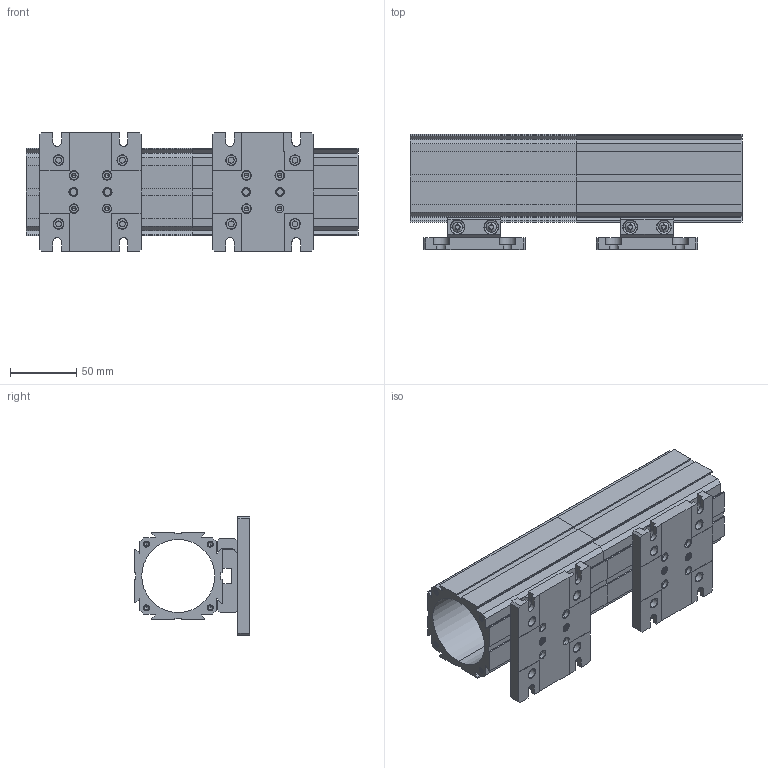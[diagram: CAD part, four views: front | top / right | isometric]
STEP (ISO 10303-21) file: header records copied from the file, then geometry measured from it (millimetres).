
FILE_DESCRIPTION((''),'2;1');
FILE_NAME('OPH-B250_ASM','2021-06-24T',('Administrator'),(''),'CREO PARAMETRIC BY PTC INC, 2015290','CREO PARAMETRIC BY PTC INC, 2015290','');
FILE_SCHEMA(('CONFIG_CONTROL_DESIGN'));
Products named in the file (8): M4X12_HP; WASHER_M4; OOP-MA_A1; OOP-MA_A2; OOP-MA_ASM; OPS-ML; OPH_A250; OPH-B250_ASM
Assembly tree (11 placements, depth 3):
  OPH-B250_ASM
    OOP-MA_ASM  x2
      M4X12_HP
      WASHER_M4
      OOP-MA_A1
      OOP-MA_A2
    OPS-ML  x2
    OPH_A250
Bounding box: 250 x 86.73 x 89.28 mm (x, y, z)
Volume: 536257.8 mm3; surface area: 240462.8 mm2
Topology: 15 solids, 16 shells, 1458 faces, 4170 edges, 2664 vertices
Faces by surface type: cylinder 566, plane 372, bspline 352, cone 148, extrusion 12, sphere 8
Entity records: 64551 total; most frequent: CARTESIAN_POINT 41940, ORIENTED_EDGE 5424, DIRECTION 3456, EDGE_CURVE 2712, VERTEX_POINT 1755, VECTOR 1338, LINE 1335, B_SPLINE_CURVE_WITH_KNOTS 1069
